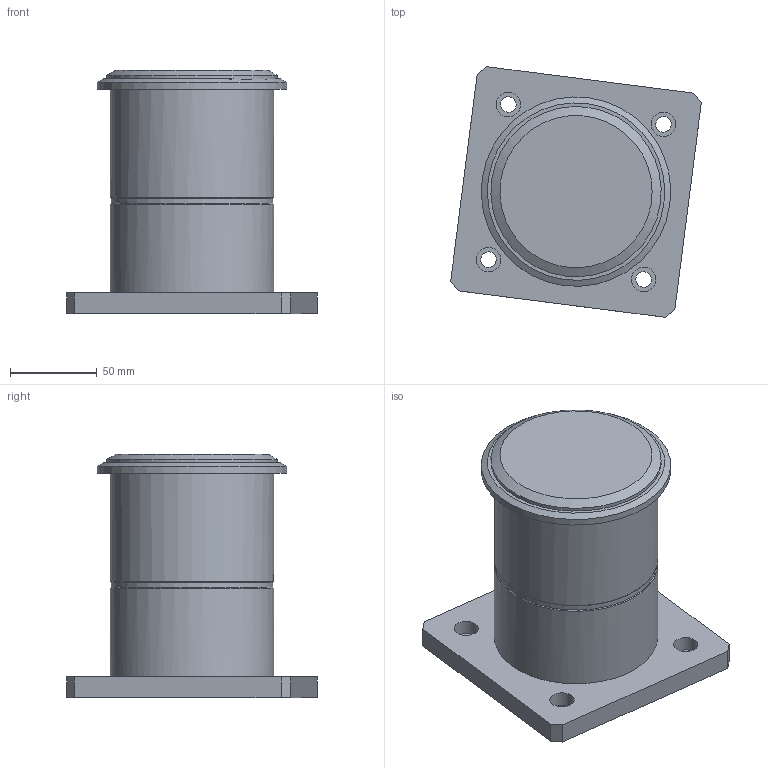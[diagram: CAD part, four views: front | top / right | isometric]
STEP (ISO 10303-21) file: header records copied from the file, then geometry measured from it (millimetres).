
FILE_DESCRIPTION(/* description */ (''),/* implementation_level */ '2;1');
FILE_NAME(/* name */ 'A:\업무자료\03. 개발\홍보자료제작\홈페이지(BKCI)\20181008 이전이력\첨부자료\STEP 파일\EFAU-15\EFFS\EFFS-15-0-UPE-S DOWN.stp',/* time_stamp */ '2018-11-30T13:47:36+09:00',/* author */ ('idt-l'),/* organization */ (''),/* preprocessor_version */ 'ST-DEVELOPER v16.13',/* originating_system */ 'Autodesk Inventor 2018',/* authorisation */ '');
FILE_SCHEMA (('AUTOMOTIVE_DESIGN { 1 0 10303 214 3 1 1 }'));
Length unit declared in the file: inch
Products named in the file (1): EFFS-15-0-UPE-S DOWN
Bounding box: 144.17 x 144.17 x 140.06 mm (x, y, z)
Volume: 1097889.3 mm3; surface area: 85868.6 mm2
Topology: 1 solids, 1 shells, 39 faces, 80 edges, 53 vertices
Faces by surface type: plane 20, cylinder 15, cone 4
Full cylindrical faces by diameter (mm): 9 x4, 14 x4, 85 x1, 93 x1, 94 x2, 94.2 x1, 98 x1, 109 x1
Entity records: 1020 total; most frequent: DIRECTION 170, CARTESIAN_POINT 146, ORIENTED_EDGE 114, EDGE_LOOP 76, AXIS2_PLACEMENT_3D 73, EDGE_CURVE 57, VERTEX_POINT 49, FACE_OUTER_BOUND 39
